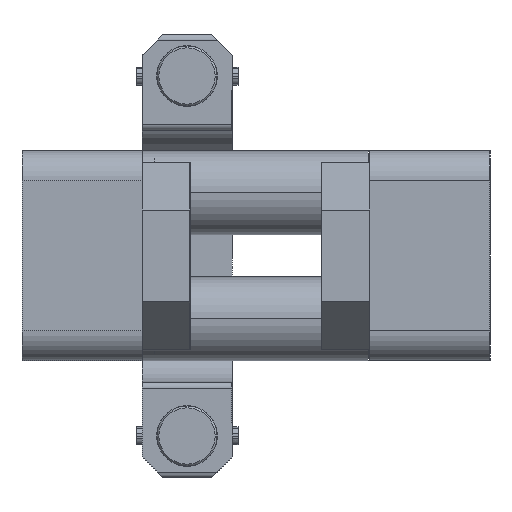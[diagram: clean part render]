
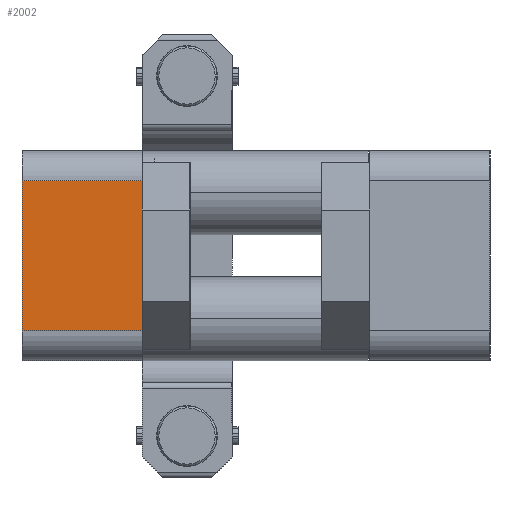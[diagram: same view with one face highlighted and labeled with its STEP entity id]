
A CAD part, left-side view. The second image highlights one B-rep face of the part: STEP entity #2002.
In plain terms, the highlighted planar face has unit normal (-1, 0, 0).
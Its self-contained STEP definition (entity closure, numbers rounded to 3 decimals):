
#73=DIRECTION('',(0.,0.,1.));
#74=VECTOR('',#73,25.);
#75=CARTESIAN_POINT('',(0.,0.,-30.));
#76=LINE('',#75,#74);
#222=DIRECTION('',(0.,-1.,0.));
#223=VECTOR('',#222,20.);
#224=CARTESIAN_POINT('',(0.,20.,-5.));
#225=LINE('',#224,#223);
#229=DIRECTION('',(0.,-1.,0.));
#230=VECTOR('',#229,20.);
#231=CARTESIAN_POINT('',(0.,20.,-30.));
#232=LINE('',#231,#230);
#350=DIRECTION('',(0.,0.,1.));
#351=VECTOR('',#350,25.);
#352=CARTESIAN_POINT('',(0.,20.,-30.));
#353=LINE('',#352,#351);
#1623=CARTESIAN_POINT('',(0.,0.,-5.));
#1625=VERTEX_POINT('',#1623);
#1626=CARTESIAN_POINT('',(0.,20.,-5.));
#1627=VERTEX_POINT('',#1626);
#1630=CARTESIAN_POINT('',(0.,0.,-30.));
#1632=VERTEX_POINT('',#1630);
#1636=CARTESIAN_POINT('',(0.,20.,-30.));
#1637=VERTEX_POINT('',#1636);
#1989=CARTESIAN_POINT('',(0.,0.,-35.));
#1990=DIRECTION('',(-1.,0.,0.));
#1991=DIRECTION('',(0.,0.,1.));
#1992=AXIS2_PLACEMENT_3D('',#1989,#1990,#1991);
#1993=PLANE('',#1992);
#1994=ORIENTED_EDGE('',*,*,#1980,.T.);
#1995=ORIENTED_EDGE('',*,*,#1917,.F.);
#1997=ORIENTED_EDGE('',*,*,#1996,.F.);
#1999=ORIENTED_EDGE('',*,*,#1998,.T.);
#2000=EDGE_LOOP('',(#1994,#1995,#1997,#1999));
#2001=FACE_OUTER_BOUND('',#2000,.F.);
#1917=EDGE_CURVE('',#1632,#1625,#76,.T.);
#1980=EDGE_CURVE('',#1627,#1625,#225,.T.);
#1996=EDGE_CURVE('',#1637,#1632,#232,.T.);
#1998=EDGE_CURVE('',#1637,#1627,#353,.T.);
#2002=ADVANCED_FACE('',(#2001),#1993,.T.);
